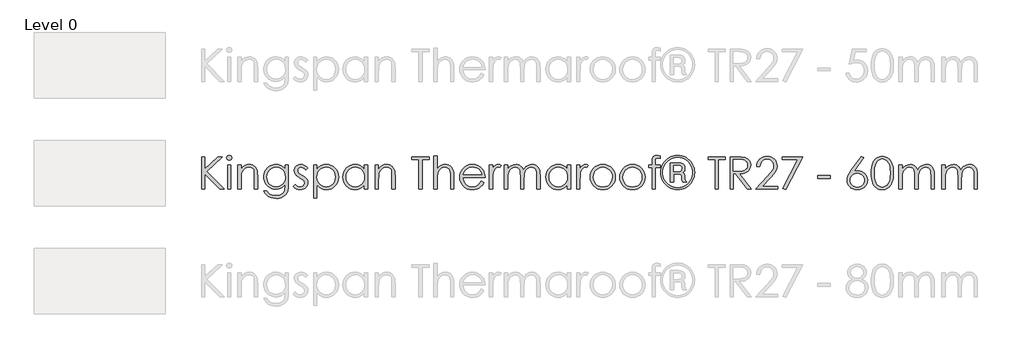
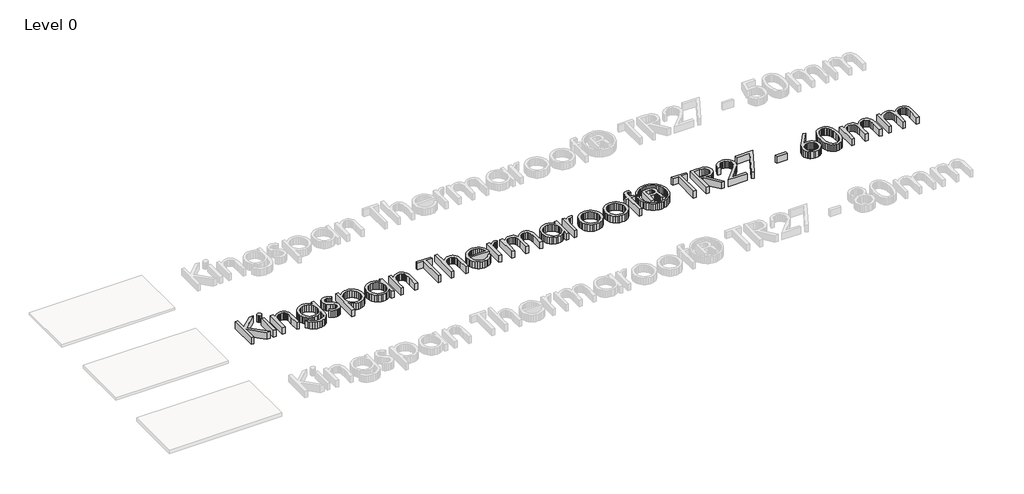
# One storey, part 10 of 12: 1 proxy.
"""IFC4 building model written with IfcOpenShell, lengths in millimetres."""

from ifc_helpers import new_model, si_unit, origin, origin_with_axes, place, context, project, spatial, polyline, outline, extrude, element, save

model = new_model("IFC4")

# Units and contexts
model_context = context("Model", 3, world=origin())
ifc_project = project(units=[si_unit("LENGTHUNIT", "METRE", prefix="MILLI")], contexts=[model_context])

# Site, building, storey
site = spatial("IfcSite", under=ifc_project)
building = spatial("IfcBuilding", under=site)
storey = spatial("IfcBuildingStorey", under=building, Name="Level 0", Elevation=0.0)

# Proxy
placement = place(None, origin())
element("IfcBuildingElementProxy", 1, Name="600mm KI_CenturyGothic", ObjectType="600mm KI_CenturyGothic", at=placement, inside=storey, context=model_context, shape_type="SweptSolid", body=[
    extrude(outline(polyline([(-3852.2663848, 1940.8964716), (-3792.944575, 1940.8964716), (-3792.944575, 1721.6838463), (-3555.1938841, 1940.8964716), (-3471.6181051, 1940.8964716), (-3760.9664119, 1673.9483274), (-3441.9572002, 1347.6783734), (-3520.8984627, 1347.6783734), (-3792.944575, 1625.9038408), (-3792.944575, 1347.6783734), (-3852.2663848, 1347.6783734), (-3852.2663848, 1940.8964716)])), origin_with_axes(), (0.0, 0.0, 1.0), 150.0),
    extrude(outline(polyline([(-3348.1854852, 1970.5573765), (-3329.145347, 1967.2745941), (-3313.1176445, 1957.4262468), (-3302.226531, 1942.982004), (-3298.5961598, 1925.9115353), (-3302.226531, 1909.0727924), (-3313.1176445, 1894.7057916), (-3329.145347, 1884.8574442), (-3348.1854852, 1881.5746618), (-3366.9938975, 1884.8574442), (-3382.9443581, 1894.7057916), (-3393.8354717, 1909.0727924), (-3397.4658428, 1925.9115353), (-3393.8354717, 1942.982004), (-3382.9443581, 1957.4262468), (-3366.9938975, 1967.2745941), (-3348.1854852, 1970.5573765)])), origin_with_axes(), (0.0, 0.0, 1.0), 150.0),
    extrude(outline(polyline([(-3377.6919062, 1792.5919471), (-3318.3700964, 1792.5919471), (-3318.3700964, 1347.6783734), (-3377.6919062, 1347.6783734), (-3377.6919062, 1792.5919471)])), origin_with_axes(), (0.0, 0.0, 1.0), 150.0),
    extrude(outline(polyline([(-3189.8395084, 1792.5919471), (-3130.5176986, 1792.5919471), (-3130.5176986, 1713.4962006), (-3096.9946967, 1753.0054529), (-3060.0730495, 1780.6966883), (-3019.7141359, 1797.0333586), (-2975.879335, 1802.4789154), (-2953.4357238, 1800.9002832), (-2932.2955704, 1796.1643868), (-2912.4588747, 1788.2712261), (-2893.9256368, 1777.220801), (-2877.212412, 1763.4958738), (-2862.835756, 1747.5792066), (-2841.0921499, 1709.170652), (-2833.6238199, 1684.7911647), (-2828.2892984, 1654.4447376), (-2824.0216812, 1575.8510638), (-2824.0216812, 1347.6783734), (-2883.343491, 1347.6783734), (-2883.343491, 1560.8661274), (-2883.343491, 1663.9068752), (-2884.7290183, 1684.7042675), (-2889.8125035, 1702.759571), (-2898.2849788, 1718.0727856), (-2910.1464442, 1730.6439113), (-2924.7403432, 1740.4439824), (-2941.4101193, 1747.4440332), (-2980.977303, 1753.0440738), (-3005.3471351, 1750.8861272), (-3028.4038541, 1744.4122871), (-3050.1474602, 1733.6225536), (-3070.5779533, 1718.5169267), (-3088.6622225, 1700.2347251), (-3103.3671568, 1679.9152673), (-3114.6927562, 1657.5585533), (-3122.6390208, 1633.1645832), (-3128.5480292, 1586.0856208), (-3130.5176986, 1511.5857698), (-3130.5176986, 1347.6783734), (-3189.8395084, 1347.6783734), (-3189.8395084, 1792.5919471)])), origin_with_axes(), (0.0, 0.0, 1.0), 150.0),
    extrude(outline(polyline([(-2319.7862977, 1792.5919471), (-2260.4644879, 1792.5919471), (-2260.4644879, 1441.6045723), (-2264.5196897, 1361.3501967), (-2269.588692, 1330.5499732), (-2276.6852953, 1305.9677259), (-2289.9371156, 1277.3544148), (-2307.2924139, 1252.2266462), (-2328.7511904, 1230.5844202), (-2354.3134448, 1212.4277367), (-2383.3226209, 1198.0655635), (-2415.122162, 1187.8068683), (-2449.7120682, 1181.6516512), (-2487.0923395, 1179.5999122), (-2541.0458345, 1183.6164931), (-2589.206184, 1195.6662357), (-2630.260275, 1214.4939586), (-2662.8949946, 1238.8444801), (-2690.2000204, 1272.1936876), (-2715.2650299, 1318.0174685), (-2655.94322, 1318.0174685), (-2642.4355358, 1296.8483493), (-2627.0933555, 1278.6047687), (-2609.9166791, 1263.2867265), (-2590.9055067, 1250.8942227), (-2569.7894914, 1241.330705), (-2546.2982864, 1234.499621), (-2492.1903075, 1229.0347537), (-2438.5071593, 1234.3644476), (-2415.083541, 1241.0265649), (-2393.93856, 1250.3535291), (-2359.6624492, 1274.3950829), (-2336.8567664, 1303.8821935), (-2329.3884364, 1322.5216391), (-2324.0539149, 1346.230087), (-2319.7862977, 1408.8539898), (-2319.7862977, 1431.5631201), (-2354.757586, 1395.7807914), (-2396.6420279, 1369.3833585), (-2443.392712, 1353.1046197), (-2492.9627269, 1347.6783734), (-2522.4063889, 1349.5756285), (-2550.9521133, 1355.267394), (-2578.5999001, 1364.7536697), (-2605.3497494, 1378.0344558), (-2630.1540674, 1394.5256099), (-2651.9652601, 1413.64299), (-2670.7833277, 1435.3865961), (-2686.6082702, 1459.7564281), (-2699.1456025, 1486.0717915), (-2708.1008399, 1513.6519917), (-2713.4739824, 1542.4970286), (-2715.2650299, 1572.6069023), (-2713.3967404, 1602.895398), (-2707.7918722, 1632.121817), (-2698.4504251, 1660.2861593), (-2685.3723991, 1687.388425), (-2668.9971079, 1712.574125), (-2649.7638648, 1734.9887704), (-2627.67267, 1754.6323612), (-2602.7235235, 1771.5048975), (-2575.9833294, 1785.0560303), (-2548.5189922, 1794.7354109), (-2520.3305117, 1800.5430392), (-2491.4178881, 1802.4789154), (-2444.5320306, 1797.5354312), (-2400.8903346, 1782.7049788), (-2359.6045177, 1756.1337514), (-2319.7862977, 1715.9679427), (-2319.7862977, 1792.5919471)]), holes=[polyline([(-2484.1571458, 1753.0440738), (-2529.0154023, 1747.0192025), (-2570.5908765, 1728.9445886), (-2606.2187212, 1700.2298975), (-2633.2340897, 1662.2847945), (-2650.2659375, 1618.0058525), (-2655.94322, 1570.2896441), (-2653.0080263, 1534.3769697), (-2644.2024452, 1501.718112), (-2629.5264766, 1472.313071), (-2608.9801206, 1446.1618467), (-2583.7606272, 1424.7030703), (-2555.0652466, 1409.3753729), (-2522.8939786, 1400.1787544), (-2487.2468234, 1397.1132149), (-2451.3244937, 1400.1546163), (-2419.1001219, 1409.2788204), (-2390.573708, 1424.4858273), (-2365.7452519, 1445.775637), (-2345.6382095, 1472.0185861), (-2331.2760363, 1502.0850112), (-2322.6587323, 1535.9749123), (-2319.7862977, 1573.6882895), (-2325.0773706, 1622.3893325), (-2340.9505892, 1665.6061979), (-2366.4983608, 1701.8326677), (-2400.8130926, 1729.5625241), (-2440.9982119, 1747.1736864), (-2484.1571458, 1753.0440738)])]), origin_with_axes(), (0.0, 0.0, 1.0), 150.0),
    extrude(outline(polyline([(-1904.5336289, 1741.303299), (-1940.9918246, 1703.6092323), (-1962.9575012, 1725.2369755), (-1984.6721416, 1740.6853635), (-2006.1357456, 1749.9543963), (-2027.3483133, 1753.0440738), (-2052.181597, 1748.3709365), (-2073.2300256, 1734.3515244), (-2087.5970264, 1714.1141362), (-2092.3860267, 1690.7870703), (-2088.4466878, 1669.2365691), (-2076.628671, 1648.767455), (-2052.0657341, 1626.5990183), (-2010.2006027, 1600.8774523), (-1958.3326401, 1568.0110069), (-1939.8428507, 1552.1860644), (-1926.315856, 1536.7666422), (-1909.9791857, 1504.0933016), (-1904.5336289, 1467.5578641), (-1906.9474396, 1441.4114674), (-1914.1888714, 1417.3506032), (-1926.2579245, 1395.3752713), (-1943.1545989, 1375.4854717), (-1963.6719892, 1358.9943176), (-1986.6031901, 1347.2149217), (-2011.9482016, 1340.1472842), (-2039.7070237, 1337.7914051), (-2077.4397114, 1341.6728126), (-2113.3958344, 1353.317035), (-2145.4512394, 1371.7971691), (-2171.4817731, 1396.1863116), (-2135.7959969, 1436.6610881), (-2114.0041146, 1415.033345), (-2091.5749863, 1399.584957), (-2068.5086121, 1390.3159242), (-2044.8049918, 1387.2262466), (-2013.637869, 1392.8649082), (-1987.4914724, 1409.780893), (-1969.7644472, 1434.3438299), (-1963.8554388, 1462.9233477), (-1967.7561567, 1486.7138652), (-1979.4583106, 1507.7236728), (-2005.0253927, 1529.4286579), (-2050.2119275, 1556.231611), (-2099.762632, 1586.8966612), (-2117.441381, 1602.0553919), (-2130.3890611, 1617.0982597), (-2146.3781427, 1649.2309067), (-2151.7078365, 1685.6891023), (-2149.5305794, 1709.7354837), (-2142.9988078, 1731.667367), (-2132.1125219, 1751.4847522), (-2116.8717217, 1769.1876393), (-2098.309518, 1783.7525726), (-2077.4590218, 1794.1560963), (-2054.3202332, 1800.3982106), (-2028.8931521, 1802.4789154), (-1997.9481, 1798.6554393), (-1966.9064954, 1787.1850113), (-1935.7683384, 1768.0676312), (-1904.5336289, 1741.303299)])), origin_with_axes(), (0.0, 0.0, 1.0), 150.0),
    extrude(outline(polyline([(-1795.7769776, 1792.5919471), (-1736.4551678, 1792.5919471), (-1736.4551678, 1711.4879102), (-1700.9238754, 1751.7309609), (-1660.4490989, 1780.0787528), (-1614.9922173, 1796.8788747), (-1564.5146096, 1802.4789154), (-1520.0618732, 1798.2402639), (-1478.9305402, 1785.5243096), (-1441.1206107, 1764.3310523), (-1406.6320845, 1734.6604922), (-1377.9077381, 1699.0229921), (-1357.3903478, 1659.9289153), (-1345.0799137, 1617.3782617), (-1340.9764356, 1571.3710313), (-1345.0412927, 1524.4706909), (-1357.235864, 1481.2489979), (-1377.5601494, 1441.7059523), (-1406.014149, 1405.8415541), (-1440.2130179, 1376.0696139), (-1477.7719111, 1354.8039423), (-1518.6908288, 1342.0445394), (-1562.9697708, 1337.7914051), (-1612.6170277, 1343.2562723), (-1658.0545988, 1359.6508741), (-1699.3211052, 1386.8979684), (-1736.4551678, 1424.9203133), (-1736.4551678, 1189.4868805), (-1795.7769776, 1189.4868805), (-1795.7769776, 1792.5919471)]), holes=[polyline([(-1568.5311905, 1753.0440738), (-1602.5852307, 1749.7468085), (-1633.8392507, 1739.8550126), (-1662.2932503, 1723.3686861), (-1687.9472295, 1700.2878289), (-1709.1694525, 1672.3021086), (-1724.3281832, 1641.1011925), (-1733.4234216, 1606.6850806), (-1736.4551678, 1569.0537731), (-1731.048232, 1520.1982461), (-1714.8274246, 1476.5179291), (-1688.5265441, 1439.6735238), (-1652.8793888, 1411.3257318), (-1611.4390881, 1393.2511179), (-1567.7587711, 1387.2262466), (-1525.0632888, 1393.2897389), (-1485.0326535, 1411.4802157), (-1450.2544701, 1440.5811166), (-1423.3163435, 1479.3758809), (-1406.05277, 1524.0410326), (-1400.2982454, 1570.7530957), (-1405.9948385, 1617.6968847), (-1423.0846177, 1662.1303106), (-1449.8103289, 1700.4809338), (-1484.414718, 1729.1763144), (-1524.7157001, 1747.077134), (-1568.5311905, 1753.0440738)])]), origin_with_axes(), (0.0, 0.0, 1.0), 150.0),
    extrude(outline(polyline([(-807.0801472, 1792.5919471), (-807.0801472, 1347.6783734), (-866.401957, 1347.6783734), (-866.401957, 1423.5299583), (-903.4780882, 1385.6814078), (-944.8797679, 1358.9556966), (-990.4525125, 1343.082478), (-1040.0418379, 1337.7914051), (-1084.3159523, 1342.0445394), (-1125.2203871, 1354.8039423), (-1162.7551422, 1376.0696139), (-1196.9202178, 1405.8415541), (-1225.340424, 1441.7059523), (-1245.6405713, 1481.2489979), (-1257.8206597, 1524.4706909), (-1261.8806892, 1571.3710313), (-1257.7820388, 1617.3782617), (-1245.4860875, 1659.9289153), (-1224.9928353, 1699.0229921), (-1196.3022822, 1734.6604922), (-1161.8475494, 1764.3310523), (-1124.061758, 1785.5243096), (-1082.9449079, 1798.2402639), (-1038.4969991, 1802.4789154), (-987.7490446, 1796.8788747), (-942.0990581, 1780.0787528), (-921.2051134, 1767.3917642), (-901.6242816, 1751.7309609), (-866.401957, 1711.4879102), (-866.401957, 1792.5919471), (-807.0801472, 1792.5919471)]), holes=[polyline([(-1034.3259343, 1753.0440738), (-1078.1414247, 1747.077134), (-1118.4424068, 1729.1763144), (-1153.0467959, 1700.4809338), (-1179.7725071, 1662.1303106), (-1196.8622863, 1617.6968847), (-1202.5588794, 1570.7530957), (-1196.8043548, 1524.0410326), (-1179.5407813, 1479.3758809), (-1152.6026548, 1440.5811166), (-1117.8244713, 1411.4802157), (-1077.6779731, 1393.2897389), (-1034.6349021, 1387.2262466), (-991.0125165, 1393.2511179), (-949.7460102, 1411.3257318), (-914.2726493, 1439.6735238), (-888.0297002, 1476.5179291), (-871.8088928, 1520.1982461), (-866.401957, 1569.0537731), (-869.4337032, 1606.6850806), (-878.5289416, 1641.1011925), (-893.6876723, 1672.3021086), (-914.9098953, 1700.2878289), (-940.5638746, 1723.3686861), (-969.0178742, 1739.8550126), (-1000.2718941, 1749.7468085), (-1034.3259343, 1753.0440738)])]), origin_with_axes(), (0.0, 0.0, 1.0), 150.0),
    extrude(outline(polyline([(-668.662591, 1792.5919471), (-609.3407811, 1792.5919471), (-609.3407811, 1713.4962006), (-575.8177792, 1753.0054529), (-538.896132, 1780.6966883), (-498.5372184, 1797.0333586), (-454.7024175, 1802.4789154), (-432.2588064, 1800.9002832), (-411.1186529, 1796.1643868), (-391.2819572, 1788.2712261), (-372.7487193, 1777.220801), (-356.0354946, 1763.4958738), (-341.6588385, 1747.5792066), (-319.9152324, 1709.170652), (-312.4469024, 1684.7911647), (-307.1123809, 1654.4447376), (-302.8447637, 1575.8510638), (-302.8447637, 1347.6783734), (-362.1665735, 1347.6783734), (-362.1665735, 1560.8661274), (-362.1665735, 1663.9068752), (-363.5521008, 1684.7042675), (-368.635586, 1702.759571), (-377.1080613, 1718.0727856), (-388.9695267, 1730.6439113), (-403.5634257, 1740.4439824), (-420.2332018, 1747.4440332), (-459.8003855, 1753.0440738), (-484.1702176, 1750.8861272), (-507.2269366, 1744.4122871), (-528.9705427, 1733.6225536), (-549.4010358, 1718.5169267), (-567.485305, 1700.2347251), (-582.1902393, 1679.9152673), (-593.5158387, 1657.5585533), (-601.4621033, 1633.1645832), (-607.3711117, 1586.0856208), (-609.3407811, 1511.5857698), (-609.3407811, 1347.6783734), (-668.662591, 1347.6783734), (-668.662591, 1792.5919471)])), origin_with_axes(), (0.0, 0.0, 1.0), 150.0),
    extrude(outline(polyline([(3.6512537, 1891.4616301), (3.6512537, 1940.8964716), (320.0342394, 1940.8964716), (320.0342394, 1891.4616301), (191.5036515, 1891.4616301), (191.5036515, 1347.6783734), (132.1818417, 1347.6783734), (132.1818417, 1891.4616301), (3.6512537, 1891.4616301)])), origin_with_axes(), (0.0, 0.0, 1.0), 150.0),
    extrude(outline(polyline([(409.0169542, 1960.6704082), (468.338764, 1960.6704082), (468.338764, 1711.9513618), (502.1128022, 1751.6537189), (539.1696229, 1779.9242689), (579.470605, 1796.8402538), (622.9771276, 1802.4789154), (645.4207388, 1800.9002832), (666.5608922, 1796.1643868), (686.3975879, 1788.2712261), (704.9308258, 1777.220801), (721.6440506, 1763.5103567), (736.0207066, 1747.6371381), (757.7643127, 1709.4023778), (765.2326428, 1685.0953049), (770.5671642, 1654.7343949), (774.8347814, 1575.8510638), (774.8347814, 1347.6783734), (715.5129716, 1347.6783734), (715.5129716, 1560.8661274), (714.1226167, 1625.2472843), (709.9515519, 1663.9068752), (696.4342124, 1702.759571), (686.7210385, 1718.0727856), (675.0381951, 1730.6439113), (661.3953375, 1740.4439824), (645.8021209, 1747.4440332), (608.7646107, 1753.0440738), (585.8961689, 1750.8861272), (564.2539428, 1744.4122871), (543.8379326, 1733.6225536), (524.6481382, 1718.5169267), (507.659739, 1700.2347251), (493.8479146, 1679.9152673), (483.212665, 1657.5585533), (475.7539902, 1633.1645832), (470.1925705, 1586.3173466), (468.338764, 1511.5857698), (468.338764, 1347.6783734), (409.0169542, 1347.6783734), (409.0169542, 1960.6704082)])), origin_with_axes(), (0.0, 0.0, 1.0), 150.0),
    extrude(outline(polyline([(1280.6150037, 1495.9828979), (1328.5050064, 1470.8020255), (1302.8799929, 1428.9175837), (1273.5859872, 1395.9545858), (1240.5071264, 1370.8702658), (1203.5275477, 1352.6218575), (1162.048626, 1341.4990182), (1115.4717363, 1337.7914051), (1063.9803281, 1342.2231614), (1018.4172388, 1355.5184303), (978.7824684, 1377.6772118), (945.0760169, 1408.6995059), (918.1765113, 1445.3025301), (898.9625788, 1484.2035021), (887.4342193, 1525.4024218), (883.5914328, 1568.8992892), (886.8742152, 1609.7795859), (896.7225625, 1648.3812453), (913.1364748, 1684.7042675), (936.1159519, 1718.7486525), (972.3038007, 1755.3806425), (1014.1303111, 1781.5463497), (1061.5954832, 1797.2457739), (1114.6993169, 1802.4789154), (1169.3479893, 1797.1106005), (1218.2035163, 1781.0056561), (1261.2658978, 1754.164082), (1298.5351338, 1716.5858782), (1320.008393, 1684.4146103), (1335.456781, 1648.4584873), (1344.8802977, 1608.7175092), (1348.278943, 1565.1916761), (942.9132426, 1565.1916761), (946.6498214, 1527.9369229), (956.1602353, 1494.1870228), (971.4444841, 1463.9419758), (992.502568, 1437.2017817), (1017.86689, 1415.3374851), (1046.0698533, 1399.7201304), (1077.1114579, 1390.3497175), (1110.9917037, 1387.2262466), (1144.5147056, 1390.2386823), (1177.1108043, 1399.2759892), (1206.8489511, 1413.3147118), (1231.7980977, 1431.3313943), (1255.2796474, 1457.4971014), (1280.6150037, 1495.9828979)]), holes=[polyline([(1288.9571332, 1614.6265176), (1274.5322009, 1657.1482055), (1254.7389538, 1690.1691348), (1228.6311782, 1715.6975959), (1195.2626601, 1735.7418793), (1157.3175572, 1748.7185252), (1117.4800267, 1753.0440738), (1085.0577224, 1750.3309507), (1054.9912973, 1742.1915813), (1027.2807514, 1728.6259656), (1001.9260846, 1709.6341036), (985.3866543, 1691.8201813), (970.9906877, 1670.0476095), (958.738185, 1644.3163882), (948.6291461, 1614.6265176), (1288.9571332, 1614.6265176)])]), origin_with_axes(), (0.0, 0.0, 1.0), 150.0),
    extrude(outline(polyline([(1427.3746895, 1792.5919471), (1486.6964993, 1792.5919471), (1486.6964993, 1728.1721692), (1512.2442709, 1761.212409), (1539.1437765, 1784.3270595), (1567.317774, 1797.9409514), (1596.6890217, 1802.4789154), (1620.0160875, 1798.6940603), (1644.8879922, 1787.3394952), (1615.3815711, 1745.3198799), (1586.8020534, 1753.0440738), (1560.3853099, 1747.0964445), (1534.8954698, 1729.2535564), (1512.8428959, 1698.897474), (1496.7379515, 1655.4102618), (1489.2068623, 1597.2857021), (1486.6964993, 1499.8449949), (1486.6964993, 1347.6783734), (1427.3746895, 1347.6783734), (1427.3746895, 1792.5919471)])), origin_with_axes(), (0.0, 0.0, 1.0), 150.0),
    extrude(outline(polyline([(1704.209802, 1792.5919471), (1763.5316118, 1792.5919471), (1763.5316118, 1716.4313943), (1793.1152748, 1752.9282109), (1823.4713571, 1778.0704624), (1866.8813274, 1796.3768021), (1912.4540719, 1802.4789154), (1943.2929164, 1799.3313063), (1972.4710592, 1789.8884792), (1998.2312461, 1775.2125106), (2018.8162231, 1756.3654773), (2035.5970345, 1730.9335686), (2049.9447249, 1696.5029739), (2064.7220735, 1720.9017716), (2081.247021, 1742.1915813), (2099.5195674, 1760.3724029), (2119.5397127, 1775.4442364), (2140.83435, 1787.2719085), (2162.9303724, 1795.7202456), (2185.82778, 1800.7892479), (2209.5265726, 1802.4789154), (2251.8551557, 1796.6664594), (2271.0497777, 1789.4008894), (2288.9312868, 1779.2290915), (2305.0458865, 1766.4600333), (2318.9397805, 1751.4026826), (2340.065451, 1714.4231039), (2347.3648143, 1691.0477619), (2352.5786453, 1662.4778993), (2356.74971, 1589.754613), (2356.74971, 1347.6783734), (2297.4279002, 1347.6783734), (2297.4279002, 1593.3077422), (2294.9754686, 1654.4254271), (2287.6181738, 1692.8726027), (2274.3132497, 1717.3389871), (2254.01793, 1736.5142987), (2227.9487753, 1748.9116301), (2197.3223461, 1753.0440738), (2177.6739277, 1751.4944074), (2158.894481, 1746.8454082), (2123.9425033, 1728.2494111), (2095.2085016, 1699.3029942), (2075.434565, 1662.0530687), (2068.743482, 1637.895652), (2063.9641369, 1606.8250817), (2060.1406609, 1523.9444802), (2060.1406609, 1347.6783734), (2000.8188511, 1347.6783734), (2000.8188511, 1578.0138381), (1998.4050405, 1646.4695073), (1991.1636086, 1688.7015379), (1977.9166159, 1714.944487), (1957.4861228, 1735.4329116), (1931.1659318, 1748.6412833), (1900.2498454, 1753.0440738), (1863.3088876, 1746.9998921), (1828.801051, 1728.8673467), (1799.8353235, 1700.5002442), (1779.5206934, 1663.7523914), (1767.5288822, 1611.9230497), (1763.5316118, 1538.311481), (1763.5316118, 1347.6783734), (1704.209802, 1347.6783734), (1704.209802, 1792.5919471)])), origin_with_axes(), (0.0, 0.0, 1.0), 150.0),
    extrude(outline(polyline([(2920.3069034, 1792.5919471), (2920.3069034, 1347.6783734), (2860.9850935, 1347.6783734), (2860.9850935, 1423.5299583), (2823.9089624, 1385.6814078), (2782.5072826, 1358.9556966), (2736.9345381, 1343.082478), (2687.3452127, 1337.7914051), (2643.0710983, 1342.0445394), (2602.1666635, 1354.8039423), (2564.6319083, 1376.0696139), (2530.4668328, 1405.8415541), (2502.0466266, 1441.7059523), (2481.7464792, 1481.2489979), (2469.5663908, 1524.4706909), (2465.5063614, 1571.3710313), (2469.6050118, 1617.3782617), (2481.9009631, 1659.9289153), (2502.3942153, 1699.0229921), (2531.0847683, 1734.6604922), (2565.5395011, 1764.3310523), (2603.3252926, 1785.5243096), (2644.4421427, 1798.2402639), (2688.8900515, 1802.4789154), (2739.638006, 1796.8788747), (2785.2879925, 1780.0787528), (2806.1819372, 1767.3917642), (2825.7627689, 1751.7309609), (2860.9850935, 1711.4879102), (2860.9850935, 1792.5919471), (2920.3069034, 1792.5919471)]), holes=[polyline([(2693.0611162, 1753.0440738), (2649.2456259, 1747.077134), (2608.9446437, 1729.1763144), (2574.3402547, 1700.4809338), (2547.6145435, 1662.1303106), (2530.5247643, 1617.6968847), (2524.8281712, 1570.7530957), (2530.5826957, 1524.0410326), (2547.8462693, 1479.3758809), (2574.7843958, 1440.5811166), (2609.5625792, 1411.4802157), (2649.7090775, 1393.2897389), (2692.7521485, 1387.2262466), (2736.374534, 1393.2511179), (2777.6410404, 1411.3257318), (2813.1144013, 1439.6735238), (2839.3573504, 1476.5179291), (2855.5781577, 1520.1982461), (2860.9850935, 1569.0537731), (2857.9533474, 1606.6850806), (2848.858109, 1641.1011925), (2833.6993783, 1672.3021086), (2812.4771553, 1700.2878289), (2786.823176, 1723.3686861), (2758.3691764, 1739.8550126), (2727.1151565, 1749.7468085), (2693.0611162, 1753.0440738)])]), origin_with_axes(), (0.0, 0.0, 1.0), 150.0),
    extrude(outline(polyline([(3029.0635547, 1792.5919471), (3088.3853645, 1792.5919471), (3088.3853645, 1728.1721692), (3113.9331361, 1761.212409), (3140.8326417, 1784.3270595), (3169.0066393, 1797.9409514), (3198.3778869, 1802.4789154), (3221.7049527, 1798.6940603), (3246.5768574, 1787.3394952), (3217.0704364, 1745.3198799), (3188.4909186, 1753.0440738), (3162.0741752, 1747.0964445), (3136.584335, 1729.2535564), (3114.5317612, 1698.897474), (3098.4268167, 1655.4102618), (3090.8957276, 1597.2857021), (3088.3853645, 1499.8449949), (3088.3853645, 1347.6783734), (3029.0635547, 1347.6783734), (3029.0635547, 1792.5919471)])), origin_with_axes(), (0.0, 0.0, 1.0), 150.0),
    extrude(outline(polyline([(3508.7360013, 1802.4789154), (3558.0453247, 1797.8540542), (3602.932547, 1783.9794708), (3643.3976682, 1760.855165), (3679.4406884, 1728.481137), (3706.340194, 1693.2491571), (3725.5541265, 1654.9081892), (3737.0824861, 1613.4582333), (3740.9252726, 1568.8992892), (3736.8604155, 1524.0844812), (3724.6658442, 1482.1759012), (3704.3415588, 1443.1735492), (3675.8875592, 1407.0774252), (3641.0514443, 1376.7647914), (3601.580813, 1355.1129101), (3557.4756654, 1342.1217813), (3508.7360013, 1337.7914051), (3459.8611639, 1342.1217813), (3415.6594638, 1355.1129101), (3376.130901, 1376.7647914), (3341.2754757, 1407.0774252), (3312.8214761, 1443.1735492), (3292.4971906, 1482.1759012), (3280.3026194, 1524.0844812), (3276.2377623, 1568.8992892), (3280.0805488, 1613.2651284), (3291.6089083, 1654.5992215), (3310.8228409, 1692.9015684), (3337.7223464, 1728.1721692), (3373.7846771, 1760.6813707), (3414.3077298, 1783.9022288), (3459.2915046, 1797.8347437), (3508.7360013, 1802.4789154)]), holes=[polyline([(3508.5815174, 1753.0440738), (3474.3054066, 1749.6695666), (3442.5396588, 1739.5460449), (3413.2842741, 1722.6735086), (3386.5392524, 1699.0519579), (3364.2356423, 1670.6414069), (3348.3044922, 1639.4018698), (3338.7458021, 1605.3333467), (3335.5595721, 1568.4358375), (3341.3720281, 1520.7003187), (3358.809396, 1476.3634452), (3386.1530427, 1438.5728261), (3421.6843351, 1410.4760705), (3463.2211882, 1393.0387026), (3508.5815174, 1387.2262466), (3553.9418466, 1393.0387026), (3595.4786998, 1410.4760705), (3631.0099921, 1438.5728261), (3658.3536389, 1476.3634452), (3675.7910068, 1520.7003187), (3681.6034628, 1568.4358375), (3678.4027499, 1605.3333467), (3668.8006112, 1639.4018698), (3652.7970468, 1670.6414069), (3630.3920566, 1699.0519579), (3603.5746206, 1722.6735086), (3574.3337188, 1739.5460449), (3542.669351, 1749.6695666), (3508.5815174, 1753.0440738)])]), origin_with_axes(), (0.0, 0.0, 1.0), 150.0),
    extrude(outline(polyline([(4052.519258, 1802.4789154), (4101.8285814, 1797.8540542), (4146.7158037, 1783.9794708), (4187.180925, 1760.855165), (4223.2239452, 1728.481137), (4250.1234507, 1693.2491571), (4269.3373833, 1654.9081892), (4280.8657428, 1613.4582333), (4284.7085293, 1568.8992892), (4280.6436722, 1524.0844812), (4268.4491009, 1482.1759012), (4248.1248155, 1443.1735492), (4219.6708159, 1407.0774252), (4184.834701, 1376.7647914), (4145.3640698, 1355.1129101), (4101.2589221, 1342.1217813), (4052.519258, 1337.7914051), (4003.6444206, 1342.1217813), (3959.4427205, 1355.1129101), (3919.9141578, 1376.7647914), (3885.0587324, 1407.0774252), (3856.6047328, 1443.1735492), (3836.2804474, 1482.1759012), (3824.0858761, 1524.0844812), (3820.021019, 1568.8992892), (3823.8638055, 1613.2651284), (3835.392165, 1654.5992215), (3854.6060976, 1692.9015684), (3881.5056031, 1728.1721692), (3917.5679338, 1760.6813707), (3958.0909865, 1783.9022288), (4003.0747613, 1797.8347437), (4052.519258, 1802.4789154)]), holes=[polyline([(4052.3647741, 1753.0440738), (4018.0886633, 1749.6695666), (3986.3229156, 1739.5460449), (3957.0675308, 1722.6735086), (3930.3225091, 1699.0519579), (3908.018899, 1670.6414069), (3892.0877489, 1639.4018698), (3882.5290589, 1605.3333467), (3879.3428288, 1568.4358375), (3885.1552848, 1520.7003187), (3902.5926527, 1476.3634452), (3929.9362994, 1438.5728261), (3965.4675918, 1410.4760705), (4007.004445, 1393.0387026), (4052.3647741, 1387.2262466), (4097.7251033, 1393.0387026), (4139.2619565, 1410.4760705), (4174.7932489, 1438.5728261), (4202.1368956, 1476.3634452), (4219.5742635, 1520.7003187), (4225.3867195, 1568.4358375), (4222.1860066, 1605.3333467), (4212.5838679, 1639.4018698), (4196.5803035, 1670.6414069), (4174.1753133, 1699.0519579), (4147.3578773, 1722.6735086), (4118.1169755, 1739.5460449), (4086.4526077, 1749.6695666), (4052.3647741, 1753.0440738)])]), origin_with_axes(), (0.0, 0.0, 1.0), 150.0),
    extrude(outline(polyline([(4561.5436418, 1959.2800533), (4561.5436418, 1907.6824375), (4535.2813822, 1917.7625106), (4513.0357036, 1921.122535), (4499.3059487, 1919.4425228), (4488.086557, 1914.4024862), (4479.9761533, 1907.1803649), (4475.5733627, 1898.9540983), (4473.0243787, 1852.3772085), (4473.0243787, 1792.5919471), (4561.5436418, 1792.5919471), (4561.5436418, 1743.1571055), (4472.8698948, 1743.1571055), (4472.8698948, 1347.6783734), (4413.2391172, 1347.6783734), (4413.2391172, 1743.1571055), (4353.9173074, 1743.1571055), (4353.9173074, 1792.5919471), (4413.2391172, 1792.5919471), (4413.2391172, 1860.1014025), (4415.3246496, 1899.938933), (4421.5812467, 1926.4522289), (4432.8392595, 1944.3723589), (4449.9290387, 1958.430392), (4472.000923, 1967.5256304), (4498.2052511, 1970.5573765), (4527.2482205, 1967.7380457), (4561.5436418, 1959.2800533)])), origin_with_axes(), (0.0, 0.0, 1.0), 150.0),
    extrude(outline(polyline([(5194.3096132, 1654.7923263), (5191.7075254, 1612.849953), (5183.9012619, 1572.4524184), (5170.8908226, 1533.5997227), (5152.6762077, 1496.2918657), (5129.9284564, 1461.6536833), (5103.3186081, 1430.8100112), (5072.8466628, 1403.7608494), (5038.5126205, 1380.5061978), (5001.5958009, 1361.818476), (4963.3755235, 1348.4701033), (4923.8517884, 1340.4610796), (4883.0245956, 1337.7914051), (4842.2649894, 1340.4465968), (4802.7895305, 1348.4121718), (4764.5982189, 1361.6881302), (4727.6910545, 1380.274472), (4693.3425293, 1403.4422264), (4662.8271355, 1430.4624224), (4636.1448729, 1461.3350603), (4613.2957415, 1496.0601399), (4594.9797465, 1533.3631692), (4581.896893, 1571.9696563), (4574.0471808, 1611.8796011), (4571.4306101, 1653.0930036), (4574.0471808, 1694.7602026), (4581.896893, 1735.1046333), (4594.9797465, 1774.1262958), (4613.2957415, 1811.8251901), (4636.13039, 1846.8785479), (4662.769204, 1877.9636011), (4693.2121836, 1905.0803496), (4727.4593286, 1928.2287935), (4764.2940787, 1946.7475486), (4802.4998732, 1959.9752308), (4842.0767122, 1967.9118401), (4883.0245956, 1970.5573765), (4923.9531684, 1967.926323), (4963.4720759, 1960.0331622), (5001.581318, 1946.8778943), (5038.2808947, 1928.4605193), (5072.4025216, 1905.4134555), (5102.7779145, 1878.3691213), (5129.4070733, 1847.3275167), (5152.289998, 1812.2886417), (5170.6735796, 1774.6669894), (5183.8047094, 1735.8770527), (5191.6833873, 1695.9188317), (5194.3096132, 1654.7923263)]), holes=[polyline([(5154.76174, 1654.1743908), (5152.4782752, 1690.318791), (5145.6278806, 1725.3721489), (5134.2105564, 1759.3344643), (5118.2263025, 1792.2057374), (5098.3220201, 1822.8080284), (5075.1446105, 1849.9633979), (5048.6940737, 1873.6718458), (5018.9704097, 1893.9333722), (4987.0115571, 1910.1541796), (4953.8554544, 1921.7404705), (4919.5021017, 1928.6922451), (4883.9514988, 1931.0095033), (4848.1353768, 1928.6922451), (4813.4489182, 1921.7404705), (4779.892123, 1910.1541796), (4747.4649911, 1893.9333722), (4717.3116688, 1873.6718458), (4690.5763024, 1849.9633979), (4667.2588918, 1822.8080284), (4647.359437, 1792.2057374), (4631.4427698, 1759.2861881), (4620.0737217, 1725.179044), (4613.2522929, 1689.8843051), (4610.9784833, 1653.4019714), (4613.2522929, 1617.093432), (4620.0737217, 1582.0111085), (4631.4427698, 1548.1550007), (4647.359437, 1515.5251087), (4667.268547, 1485.1931645), (4690.6149233, 1458.2308998), (4717.398566, 1434.6383148), (4747.619475, 1414.4154094), (4780.0948831, 1398.1946021), (4813.6420231, 1386.6083111), (4848.260895, 1379.6565365), (4883.9514988, 1377.3392783), (4919.3234797, 1379.6710194), (4953.6044181, 1386.6662425), (4986.7943142, 1398.3249478), (5018.8931678, 1414.6471353), (5048.7761433, 1434.9569378), (5075.3184049, 1458.5784886), (5098.5199526, 1485.5117875), (5118.3807864, 1515.7568346), (5134.2974536, 1548.3336227), (5145.6665016, 1582.2621448), (5152.4879304, 1617.5424008), (5154.76174, 1654.1743908)])]), origin_with_axes(), (0.0, 0.0, 1.0), 150.0),
    extrude(outline(polyline([(4749.3960396, 1832.1398203), (4893.5294994, 1832.1398203), (4936.9587801, 1829.5329048), (4966.2141648, 1821.7121584), (4986.3356901, 1807.9824036), (5002.3633927, 1787.6484629), (5012.848986, 1762.0427598), (5016.3441838, 1732.4977178), (5014.722103, 1707.2009825), (5009.8558608, 1685.6891023), (4997.0336988, 1670.4338192), (4974.6335362, 1653.7109392), (4995.2957552, 1641.0239505), (5007.8475704, 1626.4445344), (5014.2200304, 1605.3381743), (5016.3441838, 1573.0703539), (5016.3441838, 1532.9045452), (5021.4035308, 1506.9512534), (5036.581572, 1485.632478), (5046.0050887, 1476.2089613), (4976.7963106, 1476.2089613), (4967.7590036, 1500.3470675), (4961.9658581, 1528.5789966), (4957.022374, 1572.1434507), (4954.4540795, 1592.6704962), (4949.8388735, 1606.0526623), (4942.9836514, 1614.4913442), (4933.6953081, 1620.1879373), (4918.0151943, 1623.4320987), (4891.9846606, 1624.5134859), (4808.7178494, 1624.5134859), (4808.7178494, 1476.2089613), (4749.3960396, 1476.2089613), (4749.3960396, 1832.1398203)]), holes=[polyline([(4808.7178494, 1782.7049788), (4808.7178494, 1673.9483274), (4888.5860152, 1673.9483274), (4919.1738234, 1676.2655856), (4938.0208567, 1683.2173602), (4946.3340205, 1691.1056933), (4952.2719947, 1701.3305951), (4957.022374, 1728.7901047), (4953.6044181, 1753.0054529), (4943.3505506, 1769.7283329), (4923.6345454, 1779.4608173), (4891.8301767, 1782.7049788), (4808.7178494, 1782.7049788)])]), origin_with_axes(), (0.0, 0.0, 1.0), 150.0),
    extrude(outline(polyline([(5441.4838208, 1891.4616301), (5441.4838208, 1940.8964716), (5757.8668066, 1940.8964716), (5757.8668066, 1891.4616301), (5629.3362186, 1891.4616301), (5629.3362186, 1347.6783734), (5570.0144088, 1347.6783734), (5570.0144088, 1891.4616301), (5441.4838208, 1891.4616301)])), origin_with_axes(), (0.0, 0.0, 1.0), 150.0),
    extrude(outline(polyline([(5846.8495213, 1940.8964716), (5966.5745281, 1940.8964716), (6050.4206538, 1938.9654231), (6102.0568906, 1933.1722776), (6127.5370756, 1925.6363609), (6150.5262079, 1914.7693855), (6171.0242877, 1900.5713514), (6189.0313149, 1883.0422587), (6203.6976283, 1862.7421113), (6214.1735664, 1840.2309135), (6220.4591292, 1815.5086651), (6222.5543169, 1788.5753662), (6216.7804818, 1744.7212548), (6209.5631881, 1724.8942144), (6199.4589768, 1706.4671841), (6186.6754358, 1689.8263737), (6171.4201527, 1675.3579928), (6133.4943602, 1652.9385198), (6110.0176381, 1645.0019104), (6082.4567484, 1639.2666964), (6015.0824664, 1634.4004542), (6232.4412852, 1347.6783734), (6160.4517972, 1347.6783734), (5943.0929784, 1634.4004542), (5906.1713311, 1634.4004542), (5906.1713311, 1347.6783734), (5846.8495213, 1347.6783734), (5846.8495213, 1940.8964716)]), holes=[polyline([(5906.1713311, 1891.4616301), (5906.1713311, 1683.8352957), (6011.0658855, 1683.2173602), (6064.1310982, 1686.1139329), (6101.2844713, 1694.8036512), (6127.276384, 1709.8851399), (6146.8572158, 1731.9570243), (6159.1386842, 1759.0110137), (6163.232507, 1789.0388178), (6159.0807528, 1818.2555816), (6146.62549, 1844.7302565), (6127.4308679, 1866.2614472), (6103.0610359, 1880.6477585), (6067.2014653, 1888.7581622), (6013.5376276, 1891.4616301), (5906.1713311, 1891.4616301)])]), origin_with_axes(), (0.0, 0.0, 1.0), 150.0),
    extrude(outline(polyline([(6390.632778, 1762.9310422), (6331.3109682, 1762.9310422), (6335.7958283, 1802.1892581), (6346.9331505, 1837.7784819), (6364.7229348, 1869.6987135), (6389.1651812, 1897.9499531), (6418.5605669, 1921.0646036), (6451.2097694, 1937.5750682), (6487.1127885, 1947.481347), (6526.2696244, 1950.7834399), (6564.7409381, 1947.4861746), (6599.35981, 1937.5943787), (6630.1262402, 1921.1080521), (6657.0402286, 1898.027195), (6678.9045253, 1870.4663053), (6694.52188, 1840.5398812), (6703.8922928, 1808.2479228), (6707.0157637, 1773.5904299), (6700.932961, 1724.7928343), (6682.6845527, 1679.1235374), (6646.902224, 1627.2362643), (6588.2176602, 1559.7847403), (6435.4331031, 1397.1132149), (6716.902732, 1397.1132149), (6716.902732, 1347.6783734), (6311.5370316, 1347.6783734), (6537.5469477, 1588.364258), (6594.2811525, 1653.8847335), (6626.993114, 1699.9788612), (6642.5187439, 1737.3446496), (6647.6939539, 1776.6801074), (6645.4442824, 1801.2864929), (6638.6952679, 1824.125969), (6627.4469104, 1845.1985357), (6611.6992099, 1864.5041931), (6592.6880375, 1880.6236204), (6571.6492641, 1892.1374971), (6548.5828898, 1899.0458231), (6523.4889146, 1901.3485984), (6497.1542407, 1899.0747888), (6473.1464803, 1892.25336), (6451.4656333, 1880.884312), (6432.1116997, 1864.9676447), (6415.8764095, 1844.9474994), (6403.5514925, 1821.2680172), (6395.1369486, 1793.9291981), (6390.632778, 1762.9310422)])), origin_with_axes(), (0.0, 0.0, 1.0), 150.0),
    extrude(outline(polyline([(6805.8854468, 1940.8964716), (7181.5902423, 1940.8964716), (6865.2072566, 1337.7914051), (6811.2923826, 1360.1915676), (7089.9813016, 1891.4616301), (6805.8854468, 1891.4616301), (6805.8854468, 1940.8964716)])), origin_with_axes(), (0.0, 0.0, 1.0), 150.0),
    extrude(outline(polyline([(7458.4253548, 1594.852581), (7685.8256258, 1594.852581), (7685.8256258, 1545.4177395), (7458.4253548, 1545.4177395), (7458.4253548, 1594.852581)])), origin_with_axes(), (0.0, 0.0, 1.0), 150.0),
    extrude(outline(polyline([(8249.3828192, 1950.7834399), (8301.7528544, 1925.1391159), (8125.6412315, 1679.0462954), (8188.2072028, 1683.8352957), (8224.3274649, 1680.7649286), (8257.6090857, 1671.5538273), (8288.0520653, 1656.2019917), (8315.6564036, 1634.709422), (8338.568294, 1608.7271644), (8354.93393, 1579.9062656), (8364.7533116, 1548.2467255), (8368.0264388, 1513.7485441), (8366.4960829, 1489.6973351), (8361.9050151, 1466.8240656), (8354.2532354, 1445.1287358), (8343.5407439, 1424.6113455), (8330.0185768, 1405.7063807), (8313.9377704, 1388.8483273), (8274.1002399, 1361.2729548), (8227.4074873, 1343.6617925), (8177.2388473, 1337.7914051), (8128.8660825, 1343.642482), (8084.1623098, 1361.1957129), (8063.8766453, 1374.080634), (8045.8889286, 1389.3310895), (8030.1991595, 1406.9470794), (8016.8073382, 1426.9286037), (7998.443067, 1470.7634046), (7992.3216432, 1517.6106411), (7996.1451193, 1554.5515989), (8007.6155473, 1593.3849841), (8028.9343227, 1637.2004745), (8062.3028408, 1689.0877476), (8249.3828192, 1950.7834399)]), holes=[polyline([(8175.5395246, 1634.4004542), (8149.2627822, 1632.1411275), (8125.5833, 1625.3631472), (8104.5010781, 1614.0665135), (8086.0161163, 1598.2512263), (8070.9780761, 1579.2207434), (8060.2366189, 1558.2785225), (8053.7917445, 1535.4245635), (8051.6434531, 1510.6588665), (8053.9945046, 1486.0283429), (8061.0476593, 1463.2709364), (8072.802917, 1442.3866469), (8089.2602778, 1423.3754745), (8109.0486973, 1407.5601873), (8130.797131, 1396.2635536), (8154.5055789, 1389.4855733), (8180.174041, 1387.2262466), (8205.8425032, 1389.4855733), (8229.5509511, 1396.2635536), (8251.2993848, 1407.5601873), (8271.0878043, 1423.3754745), (8287.5451651, 1442.3866469), (8299.3004228, 1463.2709364), (8306.3535774, 1486.0283429), (8308.704629, 1510.6588665), (8306.2666802, 1535.4245635), (8298.9528341, 1558.2785225), (8286.7630904, 1579.2207434), (8269.6974493, 1598.2512263), (8249.1848867, 1614.0665135), (8226.6543783, 1625.3631472), (8202.1059243, 1632.1411275), (8175.5395246, 1634.4004542)])]), origin_with_axes(), (0.0, 0.0, 1.0), 150.0),
    extrude(outline(polyline([(8437.2352169, 1644.1329386), (8438.8138491, 1698.5643681), (8443.5497455, 1746.4591985), (8451.4429062, 1787.8174297), (8462.4933313, 1822.6390617), (8476.4210185, 1852.2806561), (8492.9459661, 1878.0987745), (8512.0681738, 1900.0934169), (8533.7876418, 1918.2645832), (8557.4816068, 1932.491583), (8582.5273058, 1942.6537258), (8608.9247388, 1948.7510114), (8636.6739057, 1950.7834399), (8664.876869, 1948.7365285), (8691.7087878, 1942.5957943), (8717.1696623, 1932.3612373), (8741.2594923, 1918.0328574), (8763.4424119, 1899.6154824), (8783.1825551, 1877.1139398), (8800.479922, 1850.5282296), (8815.3345126, 1819.8583518), (8827.2635647, 1784.3415424), (8835.7843162, 1743.215037), (8840.8967671, 1696.4788358), (8842.6009174, 1644.1329386), (8840.9209052, 1591.946353), (8835.8808686, 1545.3791185), (8827.4808077, 1504.4312351), (8815.7207223, 1469.1027029), (8801.0109604, 1438.5776538), (8783.7618697, 1412.0402198), (8763.9734502, 1389.490401), (8741.645702, 1370.9281973), (8717.3869052, 1356.4308507), (8691.8053403, 1346.0756031), (8664.9010071, 1339.8624546), (8636.6739057, 1337.7914051), (8608.9488769, 1339.7996955), (8582.6238583, 1345.8245668), (8557.6988498, 1355.866019), (8534.1738515, 1369.9240521), (8512.5992121, 1387.960045), (8493.5252806, 1409.9353769), (8476.9520569, 1435.8500478), (8462.879541, 1465.7040575), (8451.6601492, 1500.723622), (8443.6462979, 1542.134957), (8438.8379872, 1589.9380626), (8437.2352169, 1644.1329386)]), holes=[polyline([(8496.5570267, 1644.2874225), (8500.9405068, 1555.9612643), (8506.4198569, 1520.9803207), (8514.0909471, 1492.120801), (8523.9055011, 1467.8813147), (8535.8152427, 1446.7604718), (8549.8201719, 1428.7582721), (8565.9202888, 1413.8747159), (8601.2198553, 1393.8883639), (8619.6227475, 1388.8917759), (8638.5277122, 1387.2262466), (8657.5195742, 1388.8579826), (8675.8741902, 1393.7531905), (8710.6716841, 1413.3340223), (8726.4290398, 1428.0099909), (8740.1781051, 1445.9301209), (8751.91888, 1467.0944124), (8761.6513644, 1491.5028654), (8771.113502, 1524.8617282), (8777.8721718, 1561.445442), (8783.2791076, 1644.2874225), (8778.4514863, 1725.893532), (8772.4169598, 1760.5848182), (8763.9686226, 1791.2015921), (8753.3864768, 1817.8645443), (8740.9505245, 1840.6943651), (8726.6607656, 1859.6910547), (8710.5172002, 1874.854613), (8675.4493595, 1894.7251021), (8657.2202617, 1899.6927243), (8638.5277122, 1901.3485984), (8619.5117122, 1899.6927243), (8601.0846819, 1894.7251021), (8565.9975307, 1874.854613), (8550.0518977, 1860.0434711), (8536.1242104, 1842.1040305), (8524.2144688, 1821.0362914), (8514.3226729, 1796.8402538), (8506.5502027, 1767.9855616), (8500.9984383, 1732.941859), (8496.5570267, 1644.2874225)])]), origin_with_axes(), (0.0, 0.0, 1.0), 150.0),
    extrude(outline(polyline([(8941.4706004, 1792.5919471), (9000.7924102, 1792.5919471), (9000.7924102, 1716.4313943), (9030.3760732, 1752.9282109), (9060.7321556, 1778.0704624), (9104.1421258, 1796.3768021), (9149.7148703, 1802.4789154), (9180.5537148, 1799.3313063), (9209.7318576, 1789.8884792), (9235.4920446, 1775.2125106), (9256.0770215, 1756.3654773), (9272.857833, 1730.9335686), (9287.2055233, 1696.5029739), (9301.9828719, 1720.9017716), (9318.5078194, 1742.1915813), (9336.7803658, 1760.3724029), (9356.8005111, 1775.4442364), (9378.0951484, 1787.2719085), (9400.1911708, 1795.7202456), (9423.0885784, 1800.7892479), (9446.7873711, 1802.4789154), (9489.1159541, 1796.6664594), (9508.3105762, 1789.4008894), (9526.1920853, 1779.2290915), (9542.306685, 1766.4600333), (9556.2005789, 1751.4026826), (9577.3262495, 1714.4231039), (9584.6256128, 1691.0477619), (9589.8394437, 1662.4778993), (9594.0105085, 1589.754613), (9594.0105085, 1347.6783734), (9534.6886987, 1347.6783734), (9534.6886987, 1593.3077422), (9532.2362671, 1654.4254271), (9524.8789723, 1692.8726027), (9511.5740481, 1717.3389871), (9491.2787284, 1736.5142987), (9465.2095737, 1748.9116301), (9434.5831446, 1753.0440738), (9414.9347261, 1751.4944074), (9396.1552795, 1746.8454082), (9361.2033017, 1728.2494111), (9332.4693001, 1699.3029942), (9312.6953635, 1662.0530687), (9306.0042804, 1637.895652), (9301.2249354, 1606.8250817), (9297.4014594, 1523.9444802), (9297.4014594, 1347.6783734), (9238.0796495, 1347.6783734), (9238.0796495, 1578.0138381), (9235.6658389, 1646.4695073), (9228.4244071, 1688.7015379), (9215.1774144, 1714.944487), (9194.7469213, 1735.4329116), (9168.4267303, 1748.6412833), (9137.5106438, 1753.0440738), (9100.5696861, 1746.9998921), (9066.0618494, 1728.8673467), (9037.096122, 1700.5002442), (9016.7814918, 1663.7523914), (9004.7896806, 1611.9230497), (9000.7924102, 1538.311481), (9000.7924102, 1347.6783734), (8941.4706004, 1347.6783734), (8941.4706004, 1792.5919471)])), origin_with_axes(), (0.0, 0.0, 1.0), 150.0),
    extrude(outline(polyline([(9732.4280647, 1792.5919471), (9791.7498746, 1792.5919471), (9791.7498746, 1716.4313943), (9821.3335375, 1752.9282109), (9851.6896199, 1778.0704624), (9895.0995901, 1796.3768021), (9940.6723346, 1802.4789154), (9971.5111791, 1799.3313063), (10000.6893219, 1789.8884792), (10026.4495089, 1775.2125106), (10047.0344858, 1756.3654773), (10063.8152973, 1730.9335686), (10078.1629876, 1696.5029739), (10092.9403362, 1720.9017716), (10109.4652837, 1742.1915813), (10127.7378301, 1760.3724029), (10147.7579754, 1775.4442364), (10169.0526127, 1787.2719085), (10191.1486352, 1795.7202456), (10214.0460427, 1800.7892479), (10237.7448354, 1802.4789154), (10280.0734184, 1796.6664594), (10299.2680405, 1789.4008894), (10317.1495496, 1779.2290915), (10333.2641493, 1766.4600333), (10347.1580432, 1751.4026826), (10368.2837138, 1714.4231039), (10375.5830771, 1691.0477619), (10380.796908, 1662.4778993), (10384.9679728, 1589.754613), (10384.9679728, 1347.6783734), (10325.646163, 1347.6783734), (10325.646163, 1593.3077422), (10323.1937314, 1654.4254271), (10315.8364366, 1692.8726027), (10302.5315125, 1717.3389871), (10282.2361928, 1736.5142987), (10256.167038, 1748.9116301), (10225.5406089, 1753.0440738), (10205.8921904, 1751.4944074), (10187.1127438, 1746.8454082), (10152.160766, 1728.2494111), (10123.4267644, 1699.3029942), (10103.6528278, 1662.0530687), (10096.9617447, 1637.895652), (10092.1823997, 1606.8250817), (10088.3589237, 1523.9444802), (10088.3589237, 1347.6783734), (10029.0371139, 1347.6783734), (10029.0371139, 1578.0138381), (10026.6233032, 1646.4695073), (10019.3818714, 1688.7015379), (10006.1348787, 1714.944487), (9985.7043856, 1735.4329116), (9959.3841946, 1748.6412833), (9928.4681081, 1753.0440738), (9891.5271504, 1746.9998921), (9857.0193138, 1728.8673467), (9828.0535863, 1700.5002442), (9807.7389561, 1663.7523914), (9795.7471449, 1611.9230497), (9791.7498746, 1538.311481), (9791.7498746, 1347.6783734), (9732.4280647, 1347.6783734), (9732.4280647, 1792.5919471)])), origin_with_axes(), (0.0, 0.0, 1.0), 150.0),
])

save(model, "model.ifc")
